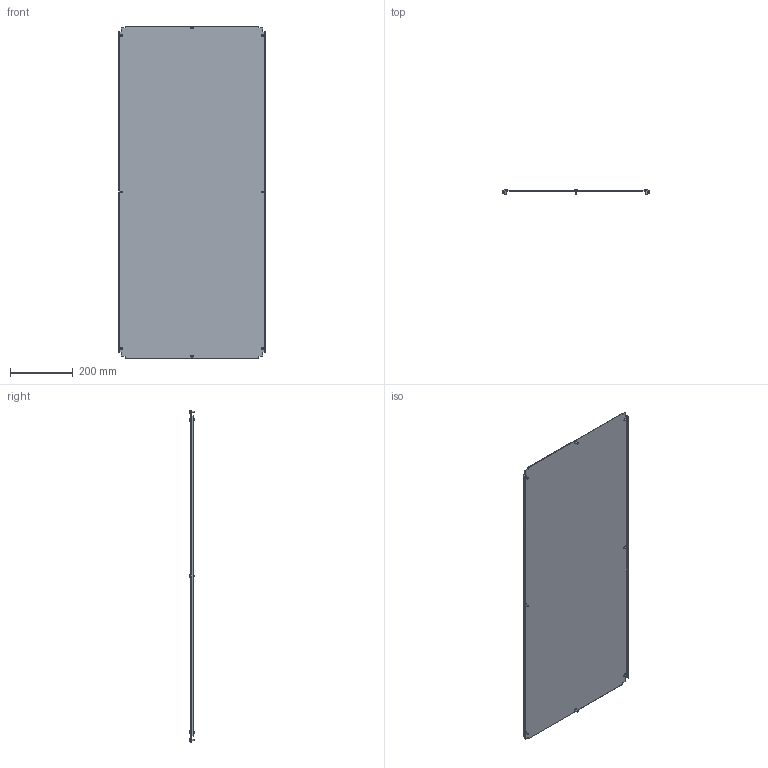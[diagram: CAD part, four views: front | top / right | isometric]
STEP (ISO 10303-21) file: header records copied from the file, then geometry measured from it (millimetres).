
FILE_DESCRIPTION (( 'STEP AP203' ), '1' );
FILE_NAME ('R5N1BP126.STEP', '2025-02-21T13:58:59', ( '' ), ( '' ), 'SwSTEP 2.0', 'SolidWorks 2022', '' );
FILE_SCHEMA (( 'CONFIG_CONTROL_DESIGN' ));
Length unit declared in the file: millimetre
Products named in the file (3): RB.1923.00.00.0_-12; R5N1BP126; M5x12 DIN 7500 C Torx Zinc_stright
Assembly tree (9 placements, depth 2):
  R5N1BP126
    RB.1923.00.00.0_-12
    M5x12 DIN 7500 C Torx Zinc_stright  x8
Bounding box: 468 x 15.56 x 1062 mm (x, y, z)
Volume: 770363.3 mm3; surface area: 1030927 mm2
Topology: 9 solids, 9 shells, 206 faces, 468 edges, 288 vertices
Faces by surface type: plane 126, cylinder 32, torus 16, cone 16, sphere 8, bspline 8
Full cylindrical faces by diameter (mm): 5 x8, 9.5 x8
Entity records: 3641 total; most frequent: CARTESIAN_POINT 724, ORIENTED_EDGE 496, DIRECTION 496, EDGE_CURVE 248, VECTOR 196, LINE 196, VERTEX_POINT 166, AXIS2_PLACEMENT_3D 150
